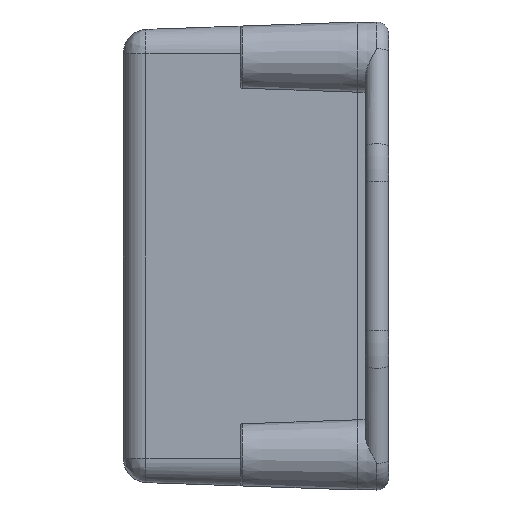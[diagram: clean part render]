
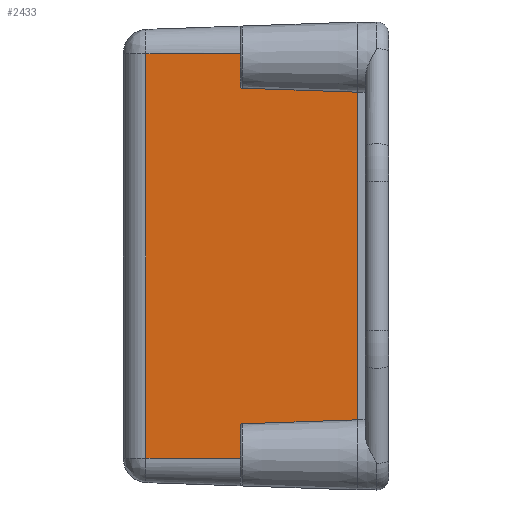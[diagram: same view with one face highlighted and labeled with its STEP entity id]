
A CAD part, left-side view. The second image highlights one B-rep face of the part: STEP entity #2433.
In plain terms, the highlighted planar face has unit normal (-0.999, 0.035, 0).
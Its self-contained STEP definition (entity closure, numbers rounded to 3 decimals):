
#85 = CARTESIAN_POINT ( 'NONE',  ( -49.476, 15., -21.643 ) ) ;
#323 = DIRECTION ( 'NONE',  ( -0.035, -0.999, 0. ) ) ;
#625 = LINE ( 'NONE', #2618, #7232 ) ;
#687 = VECTOR ( 'NONE', #6050, 1000. ) ;
#770 = CARTESIAN_POINT ( 'NONE',  ( -49.476, 15., 25.981 ) ) ;
#967 = DIRECTION ( 'NONE',  ( -0.999, 0.035, 0. ) ) ;
#974 = LINE ( 'NONE', #6799, #3686 ) ;
#1070 = ORIENTED_EDGE ( 'NONE', *, *, #6236, .T. ) ;
#1189 = EDGE_CURVE ( 'NONE', #5402, #6431, #4957, .T. ) ;
#1197 = CARTESIAN_POINT ( 'NONE',  ( -50.062, -1.777, 20.938 ) ) ;
#1228 = EDGE_CURVE ( 'NONE', #3579, #7502, #6761, .T. ) ;
#1312 = CARTESIAN_POINT ( 'NONE',  ( -49.335, 19.035, -25.974 ) ) ;
#1405 = EDGE_CURVE ( 'NONE', #3579, #1667, #625, .T. ) ;
#1418 = CARTESIAN_POINT ( 'NONE',  ( -49.053, 27.105, -25.959 ) ) ;
#1601 = CARTESIAN_POINT ( 'NONE',  ( -49.476, 15., 21.643 ) ) ;
#1667 = VERTEX_POINT ( 'NONE', #2045 ) ;
#1696 = CARTESIAN_POINT ( 'NONE',  ( -50., 0., -21. ) ) ;
#1808 = LINE ( 'NONE', #6953, #687 ) ;
#1912 = VERTEX_POINT ( 'NONE', #5408 ) ;
#2045 = CARTESIAN_POINT ( 'NONE',  ( -49.476, 15., 21.814 ) ) ;
#2237 = CARTESIAN_POINT ( 'NONE',  ( -49.476, 15., -25.981 ) ) ;
#2240 = VERTEX_POINT ( 'NONE', #1696 ) ;
#2297 = ORIENTED_EDGE ( 'NONE', *, *, #1189, .T. ) ;
#2332 = CARTESIAN_POINT ( 'NONE',  ( -49.053, 27.105, 25.959 ) ) ;
#2381 = CARTESIAN_POINT ( 'NONE',  ( -49.335, 19.035, 25.974 ) ) ;
#2433 = ADVANCED_FACE ( 'NONE', ( #7786 ), #5439, .T. ) ;
#2444 =( BOUNDED_CURVE ( )  B_SPLINE_CURVE ( 3, ( #7497, #8268, #1601, #3006 ),
 .UNSPECIFIED., .F., .F. ) 
 B_SPLINE_CURVE_WITH_KNOTS ( ( 4, 4 ),
 ( 4.747, 6.283 ),
 .UNSPECIFIED. ) 
 CURVE ( )  GEOMETRIC_REPRESENTATION_ITEM ( )  RATIONAL_B_SPLINE_CURVE ( ( 1., 0.813, 0.813, 1. ) ) 
 REPRESENTATION_ITEM ( '' )  );
#2453 = EDGE_CURVE ( 'NONE', #2240, #6431, #5988, .T. ) ;
#2476 = ORIENTED_EDGE ( 'NONE', *, *, #5574, .T. ) ;
#2618 = CARTESIAN_POINT ( 'NONE',  ( -49.476, 15., -30. ) ) ;
#2647 = EDGE_LOOP ( 'NONE', ( #3146, #1070, #4069, #2476, #3470, #3433, #3793, #2832, #2705, #2297 ) ) ;
#2705 = ORIENTED_EDGE ( 'NONE', *, *, #3430, .T. ) ;
#2832 = ORIENTED_EDGE ( 'NONE', *, *, #7152, .T. ) ;
#3006 = CARTESIAN_POINT ( 'NONE',  ( -49.476, 15., 21.814 ) ) ;
#3146 = ORIENTED_EDGE ( 'NONE', *, *, #2453, .F. ) ;
#3230 = CARTESIAN_POINT ( 'NONE',  ( -49.476, 15., -21.814 ) ) ;
#3315 = VECTOR ( 'NONE', #6112, 1000. ) ;
#3358 = VERTEX_POINT ( 'NONE', #5144 ) ;
#3430 = EDGE_CURVE ( 'NONE', #3358, #5402, #1808, .T. ) ;
#3433 = ORIENTED_EDGE ( 'NONE', *, *, #1228, .T. ) ;
#3436 = VECTOR ( 'NONE', #4212, 1000. ) ;
#3470 = ORIENTED_EDGE ( 'NONE', *, *, #1405, .F. ) ;
#3483 = CARTESIAN_POINT ( 'NONE',  ( -49.476, 15., -21.814 ) ) ;
#3579 = VERTEX_POINT ( 'NONE', #6776 ) ;
#3605 = EDGE_CURVE ( 'NONE', #7502, #1912, #6847, .T. ) ;
#3642 = DIRECTION ( 'NONE',  ( 0., 0., -1. ) ) ;
#3686 = VECTOR ( 'NONE', #5508, 1000. ) ;
#3793 = ORIENTED_EDGE ( 'NONE', *, *, #3605, .T. ) ;
#4069 = ORIENTED_EDGE ( 'NONE', *, *, #4591, .F. ) ;
#4212 = DIRECTION ( 'NONE',  ( -0.035, -0.999, -0.035 ) ) ;
#4559 = CARTESIAN_POINT ( 'NONE',  ( -49.194, 23.07, 25.966 ) ) ;
#4591 = EDGE_CURVE ( 'NONE', #6330, #7990, #6150, .T. ) ;
#4683 = CARTESIAN_POINT ( 'NONE',  ( -49.48, 14.881, -21.52 ) ) ;
#4792 = B_SPLINE_CURVE_WITH_KNOTS ( 'NONE', 3,
 ( #1418, #5804, #1312, #2237 ),
 .UNSPECIFIED., .F., .F.,
 ( 4, 4 ),
 ( -0.027, -0.015 ),
 .UNSPECIFIED. ) ;
#4830 = CARTESIAN_POINT ( 'NONE',  ( -50., 0., -30. ) ) ;
#4957 =( BOUNDED_CURVE ( )  B_SPLINE_CURVE ( 3, ( #3230, #85, #4683, #5174 ),
 .UNSPECIFIED., .F., .T. ) 
 B_SPLINE_CURVE_WITH_KNOTS ( ( 4, 4 ),
 ( 0., 1.536 ),
 .UNSPECIFIED. ) 
 CURVE ( )  GEOMETRIC_REPRESENTATION_ITEM ( )  RATIONAL_B_SPLINE_CURVE ( ( 1., 0.813, 0.813, 1. ) ) 
 REPRESENTATION_ITEM ( '' )  );
#5000 = CARTESIAN_POINT ( 'NONE',  ( -49.053, 27.105, 25.959 ) ) ;
#5144 = CARTESIAN_POINT ( 'NONE',  ( -49.476, 15., -25.981 ) ) ;
#5174 = CARTESIAN_POINT ( 'NONE',  ( -49.486, 14.71, -21.514 ) ) ;
#5402 = VERTEX_POINT ( 'NONE', #3483 ) ;
#5408 = CARTESIAN_POINT ( 'NONE',  ( -49.053, 27.105, -25.959 ) ) ;
#5439 = PLANE ( 'NONE',  #5905 ) ;
#5508 = DIRECTION ( 'NONE',  ( 0., 0., 1. ) ) ;
#5574 = EDGE_CURVE ( 'NONE', #6330, #1667, #2444, .T. ) ;
#5804 = CARTESIAN_POINT ( 'NONE',  ( -49.194, 23.07, -25.966 ) ) ;
#5905 = AXIS2_PLACEMENT_3D ( 'NONE', #4830, #967, #323 ) ;
#5988 = LINE ( 'NONE', #6718, #6280 ) ;
#6050 = DIRECTION ( 'NONE',  ( 0., 0., 1. ) ) ;
#6112 = DIRECTION ( 'NONE',  ( 0., 0., -1. ) ) ;
#6150 = LINE ( 'NONE', #1197, #3436 ) ;
#6236 = EDGE_CURVE ( 'NONE', #2240, #7990, #974, .T. ) ;
#6280 = VECTOR ( 'NONE', #8000, 1000. ) ;
#6330 = VERTEX_POINT ( 'NONE', #7416 ) ;
#6431 = VERTEX_POINT ( 'NONE', #6457 ) ;
#6457 = CARTESIAN_POINT ( 'NONE',  ( -49.486, 14.71, -21.514 ) ) ;
#6718 = CARTESIAN_POINT ( 'NONE',  ( -49.989, 0.314, -21.011 ) ) ;
#6761 = B_SPLINE_CURVE_WITH_KNOTS ( 'NONE', 3,
 ( #770, #2381, #4559, #2332 ),
 .UNSPECIFIED., .F., .F.,
 ( 4, 4 ),
 ( -0.015, -0.003 ),
 .UNSPECIFIED. ) ;
#6776 = CARTESIAN_POINT ( 'NONE',  ( -49.476, 15., 25.981 ) ) ;
#6799 = CARTESIAN_POINT ( 'NONE',  ( -50., 0., -30. ) ) ;
#6847 = LINE ( 'NONE', #7377, #3315 ) ;
#6953 = CARTESIAN_POINT ( 'NONE',  ( -49.476, 15., -30. ) ) ;
#7152 = EDGE_CURVE ( 'NONE', #1912, #3358, #4792, .T. ) ;
#7232 = VECTOR ( 'NONE', #3642, 1000. ) ;
#7377 = CARTESIAN_POINT ( 'NONE',  ( -49.053, 27.105, -25.954 ) ) ;
#7384 = CARTESIAN_POINT ( 'NONE',  ( -50., 0., 21. ) ) ;
#7416 = CARTESIAN_POINT ( 'NONE',  ( -49.486, 14.71, 21.514 ) ) ;
#7497 = CARTESIAN_POINT ( 'NONE',  ( -49.486, 14.71, 21.514 ) ) ;
#7502 = VERTEX_POINT ( 'NONE', #5000 ) ;
#7786 = FACE_OUTER_BOUND ( 'NONE', #2647, .T. ) ;
#7990 = VERTEX_POINT ( 'NONE', #7384 ) ;
#8000 = DIRECTION ( 'NONE',  ( 0.035, 0.999, -0.035 ) ) ;
#8268 = CARTESIAN_POINT ( 'NONE',  ( -49.48, 14.881, 21.52 ) ) ;
